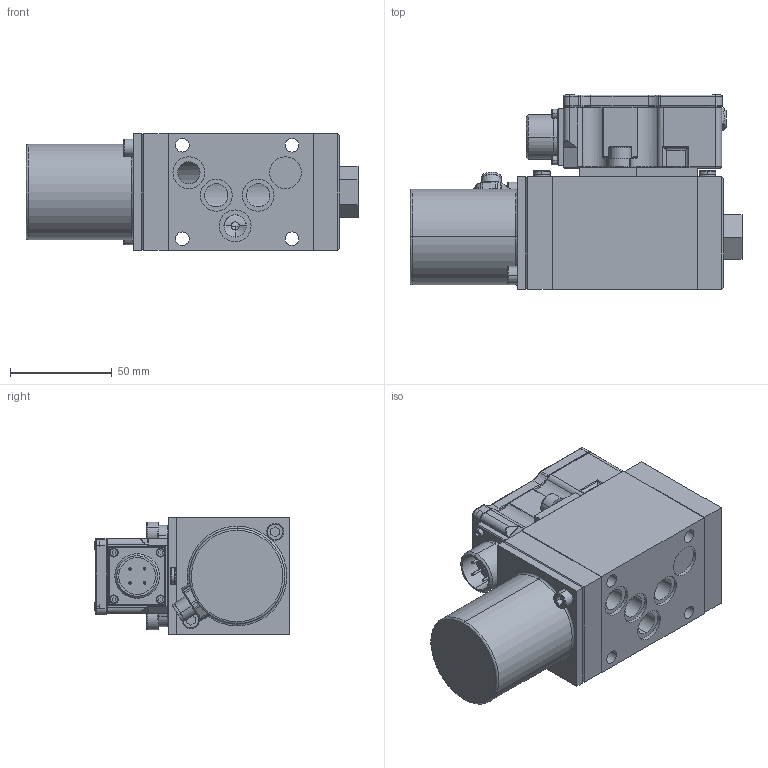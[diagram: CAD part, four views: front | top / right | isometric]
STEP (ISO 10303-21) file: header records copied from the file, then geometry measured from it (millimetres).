
FILE_DESCRIPTION (( 'STEP AP203' ), '1' );
FILE_NAME ('S120x.STEP', '2015-03-26T08:11:33', ( 'Philipp' ), ( 'Formteile' ), 'SwSTEP 2.0', 'SolidWorks 2007', '' );
FILE_SCHEMA (( 'CONFIG_CONTROL_DESIGN' ));
Length unit declared in the file: millimetre
Products named in the file (20): 131109_Standard_Standard; 290868_3_new_Standard_Standard; Flachkopf_M4_Standard_Standard; ZylShr_M8_Standard_Standard; 101209_Standard_Standard; 050967_Standard_Standard; S120x; Messing_duese_Standard_Standard; Senkshr_M4x6_Standard_Standard; 011011_Standard_Standard; 241014_Standard_Standard; 310793_Standard_Standard; 261014_Standard_Standard; Anschlussmutter_Standard_Standard; 090793-B_Standard_Standard; ZylShr_M5_Standard_Standard; Dichtscheibe_4_Standard_Standard; ZylShr_M3_Standard_Standard; Stecker_Standard_Standard
Assembly tree (34 placements, depth 2):
  S120x
    Flachkopf_M4_Standard_Standard  x2
    ZylShr_M3_Standard_Standard  x8
    Anschlussmutter_Standard_Standard
    ZylShr_M5_Standard_Standard  x2
    050967_Standard_Standard
    ZylShr_M8_Standard_Standard  x6
    Stecker_Standard_Standard
    Messing_duese_Standard_Standard
    011011_Standard_Standard
    101209_Standard_Standard
    Senkshr_M4x6_Standard_Standard
    Dichtscheibe_4_Standard_Standard  x2
    310793_Standard_Standard
    261014_Standard_Standard
    131109_Standard_Standard
    241014_Standard_Standard
    090793-B_Standard_Standard
    Senkshr_M4x6_Standard_Standard
    290868_3_new_Standard_Standard
Bounding box: 163.5 x 96.38 x 58 mm (x, y, z)
Volume: 307185 mm3; surface area: 129079.9 mm2
Topology: 34 solids, 34 shells, 1192 faces, 2816 edges, 1729 vertices
Faces by surface type: cylinder 470, plane 406, bspline 204, cone 112
Entity records: 35170 total; most frequent: CARTESIAN_POINT 10734, DIRECTION 4604, ORIENTED_EDGE 4578, EDGE_CURVE 2289, AXIS2_PLACEMENT_3D 1822, VERTEX_POINT 1411, EDGE_LOOP 1128, CIRCLE 999
